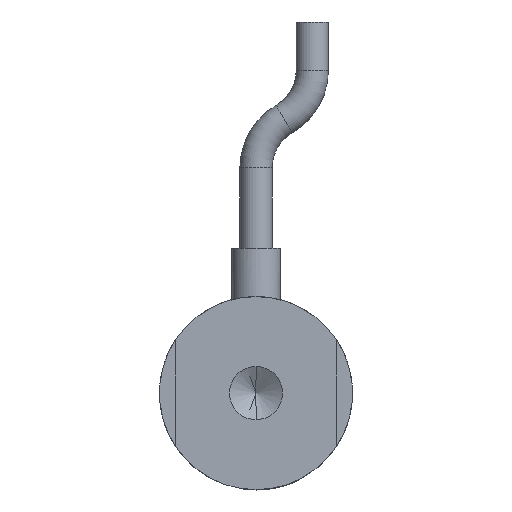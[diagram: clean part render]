
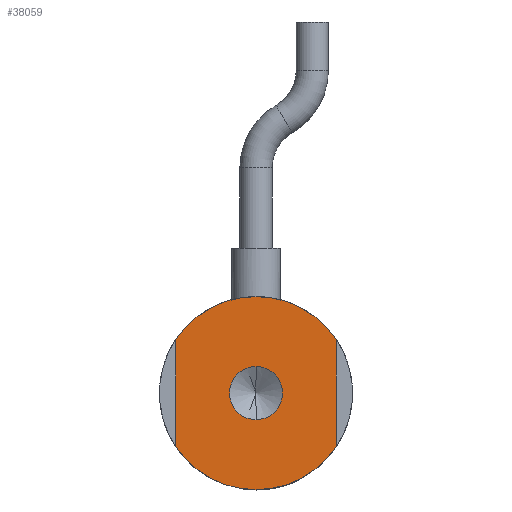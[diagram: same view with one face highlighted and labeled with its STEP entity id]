
A CAD part, front view. The second image highlights one B-rep face of the part: STEP entity #38059.
In plain terms, the highlighted planar face has unit normal (0, -1, 0).
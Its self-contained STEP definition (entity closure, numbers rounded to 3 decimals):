
#685 = CARTESIAN_POINT ( 'NONE',  ( 0., 0., -1.65 ) ) ;
#2216 = ORIENTED_EDGE ( 'NONE', *, *, #3856, .F. ) ;
#2410 = AXIS2_PLACEMENT_3D ( 'NONE', #10172, #32784, #13437 ) ;
#2694 = EDGE_CURVE ( 'NONE', #36351, #37752, #19387, .T. ) ;
#2798 = DIRECTION ( 'NONE',  ( 0., -1., 0. ) ) ;
#3436 = EDGE_CURVE ( 'NONE', #23095, #19779, #22497, .T. ) ;
#3856 = EDGE_CURVE ( 'NONE', #16029, #23095, #37031, .T. ) ;
#6925 = AXIS2_PLACEMENT_3D ( 'NONE', #10702, #33355, #13960 ) ;
#8045 = CARTESIAN_POINT ( 'NONE',  ( 0., 0., 0. ) ) ;
#8669 = CARTESIAN_POINT ( 'NONE',  ( -5., 0., 3.317 ) ) ;
#10172 = CARTESIAN_POINT ( 'NONE',  ( 0., 0., 0. ) ) ;
#10451 = AXIS2_PLACEMENT_3D ( 'NONE', #15018, #16910, #18677 ) ;
#10702 = CARTESIAN_POINT ( 'NONE',  ( 0., 0., 0. ) ) ;
#11015 = EDGE_LOOP ( 'NONE', ( #24691, #23262 ) ) ;
#11141 = ORIENTED_EDGE ( 'NONE', *, *, #27941, .F. ) ;
#11884 = CARTESIAN_POINT ( 'NONE',  ( 5., 0., 0. ) ) ;
#12053 = CARTESIAN_POINT ( 'NONE',  ( 0., 0., 0. ) ) ;
#12711 = CARTESIAN_POINT ( 'NONE',  ( -5., 0., -3.317 ) ) ;
#12928 = ORIENTED_EDGE ( 'NONE', *, *, #21510, .F. ) ;
#12976 = VECTOR ( 'NONE', #13858, 1000. ) ;
#13437 = DIRECTION ( 'NONE',  ( 0., 0., 1. ) ) ;
#13858 = DIRECTION ( 'NONE',  ( 0., 0., 1. ) ) ;
#13949 = CARTESIAN_POINT ( 'NONE',  ( -5., 0., 0. ) ) ;
#13960 = DIRECTION ( 'NONE',  ( 0., 0., 1. ) ) ;
#14577 = PLANE ( 'NONE',  #40019 ) ;
#15018 = CARTESIAN_POINT ( 'NONE',  ( 0., 0., 0. ) ) ;
#15031 = AXIS2_PLACEMENT_3D ( 'NONE', #25025, #25293, #20004 ) ;
#15303 = DIRECTION ( 'NONE',  ( 0., 0., -1. ) ) ;
#16029 = VERTEX_POINT ( 'NONE', #20696 ) ;
#16910 = DIRECTION ( 'NONE',  ( 0., 1., 0. ) ) ;
#17727 = CIRCLE ( 'NONE', #23589, 1.65 ) ;
#17844 = DIRECTION ( 'NONE',  ( 0., 0., 1. ) ) ;
#18351 = CARTESIAN_POINT ( 'NONE',  ( 0., 0., 6. ) ) ;
#18677 = DIRECTION ( 'NONE',  ( 0., 0., 1. ) ) ;
#19387 = CIRCLE ( 'NONE', #15031, 6. ) ;
#19779 = VERTEX_POINT ( 'NONE', #8669 ) ;
#20004 = DIRECTION ( 'NONE',  ( 0., 0., 1. ) ) ;
#20016 = EDGE_LOOP ( 'NONE', ( #24837, #2216, #12928, #11141, #40882, #22193 ) ) ;
#20137 = EDGE_CURVE ( 'NONE', #19779, #36351, #33950, .T. ) ;
#20683 = CIRCLE ( 'NONE', #2410, 6. ) ;
#20696 = CARTESIAN_POINT ( 'NONE',  ( 0., 0., -6. ) ) ;
#20981 = CARTESIAN_POINT ( 'NONE',  ( 5., 0., 3.317 ) ) ;
#21510 = EDGE_CURVE ( 'NONE', #35802, #16029, #20683, .T. ) ;
#21867 = DIRECTION ( 'NONE',  ( 0., 0., -1. ) ) ;
#22134 = CARTESIAN_POINT ( 'NONE',  ( 0., 0., 0. ) ) ;
#22193 = ORIENTED_EDGE ( 'NONE', *, *, #20137, .F. ) ;
#22421 = EDGE_CURVE ( 'NONE', #29346, #22704, #17727, .T. ) ;
#22497 = LINE ( 'NONE', #13949, #12976 ) ;
#22704 = VERTEX_POINT ( 'NONE', #685 ) ;
#22890 = FACE_BOUND ( 'NONE', #11015, .T. ) ;
#23095 = VERTEX_POINT ( 'NONE', #12711 ) ;
#23197 = CIRCLE ( 'NONE', #23254, 1.65 ) ;
#23254 = AXIS2_PLACEMENT_3D ( 'NONE', #22134, #2798, #25343 ) ;
#23262 = ORIENTED_EDGE ( 'NONE', *, *, #22421, .F. ) ;
#23589 = AXIS2_PLACEMENT_3D ( 'NONE', #12053, #34713, #15303 ) ;
#24691 = ORIENTED_EDGE ( 'NONE', *, *, #25195, .F. ) ;
#24837 = ORIENTED_EDGE ( 'NONE', *, *, #3436, .F. ) ;
#25025 = CARTESIAN_POINT ( 'NONE',  ( 0., 0., 0. ) ) ;
#25195 = EDGE_CURVE ( 'NONE', #22704, #29346, #23197, .T. ) ;
#25293 = DIRECTION ( 'NONE',  ( 0., 1., 0. ) ) ;
#25343 = DIRECTION ( 'NONE',  ( 0., 0., -1. ) ) ;
#25916 = VECTOR ( 'NONE', #21867, 1000. ) ;
#27941 = EDGE_CURVE ( 'NONE', #37752, #35802, #39832, .T. ) ;
#29346 = VERTEX_POINT ( 'NONE', #39425 ) ;
#29927 = FACE_OUTER_BOUND ( 'NONE', #20016, .T. ) ;
#32784 = DIRECTION ( 'NONE',  ( 0., 1., 0. ) ) ;
#33355 = DIRECTION ( 'NONE',  ( 0., 1., 0. ) ) ;
#33950 = CIRCLE ( 'NONE', #6925, 6. ) ;
#34713 = DIRECTION ( 'NONE',  ( 0., -1., 0. ) ) ;
#35802 = VERTEX_POINT ( 'NONE', #39560 ) ;
#36351 = VERTEX_POINT ( 'NONE', #18351 ) ;
#37031 = CIRCLE ( 'NONE', #10451, 6. ) ;
#37358 = DIRECTION ( 'NONE',  ( 0., 1., 0. ) ) ;
#37752 = VERTEX_POINT ( 'NONE', #20981 ) ;
#38059 = ADVANCED_FACE ( 'NONE', ( #22890, #29927 ), #14577, .F. ) ;
#39425 = CARTESIAN_POINT ( 'NONE',  ( 0., 0., 1.65 ) ) ;
#39560 = CARTESIAN_POINT ( 'NONE',  ( 5., 0., -3.317 ) ) ;
#39832 = LINE ( 'NONE', #11884, #25916 ) ;
#40019 = AXIS2_PLACEMENT_3D ( 'NONE', #8045, #37358, #17844 ) ;
#40882 = ORIENTED_EDGE ( 'NONE', *, *, #2694, .F. ) ;
